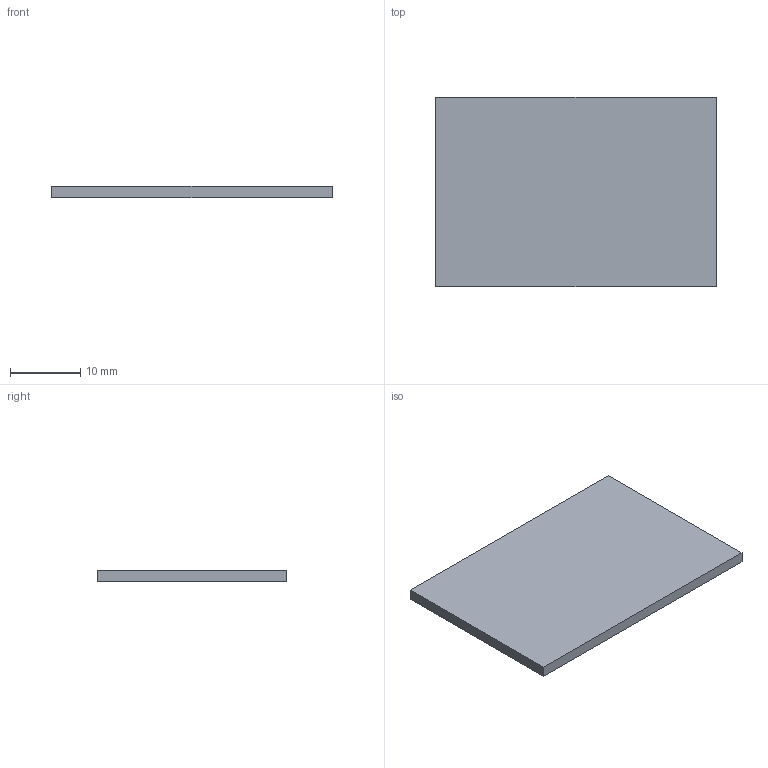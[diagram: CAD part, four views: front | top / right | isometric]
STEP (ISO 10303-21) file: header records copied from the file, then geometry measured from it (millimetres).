
FILE_DESCRIPTION(('Open CASCADE Model'),'2;1');
FILE_NAME('Open CASCADE Shape Model','2026-11-10T16:40:48',('Author'),( 'Open CASCADE'),'Open CASCADE STEP processor 7.9','Open CASCADE 7.9' ,'Unknown');
FILE_SCHEMA(('AUTOMOTIVE_DESIGN { 1 0 10303 214 1 1 1 1 }'));
Length unit declared in the file: millimetre
Products named in the file (1): Open CASCADE STEP translator 7.9 3
Bounding box: 40 x 27 x 1.6 mm (x, y, z)
Volume: 1728 mm3; surface area: 2374.4 mm2
Topology: 1 solids, 1 shells, 6 faces, 12 edges, 8 vertices
Faces by surface type: plane 6
Entity records: 322 total; most frequent: CARTESIAN_POINT 51, DIRECTION 50, LINE 36, VECTOR 36, ORIENTED_EDGE 24, PCURVE 24, DEFINITIONAL_REPRESENTATION 24, EDGE_CURVE 12
